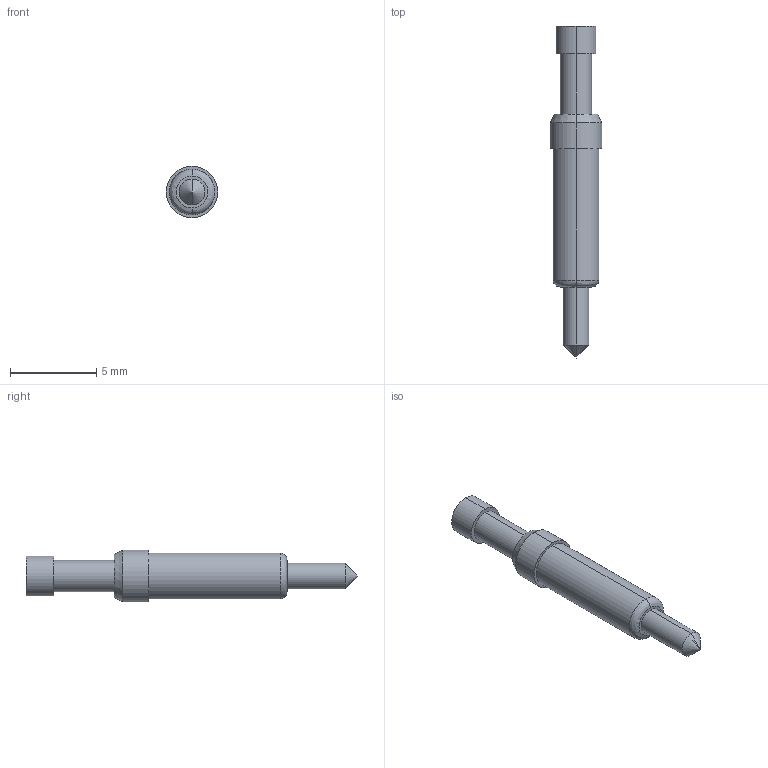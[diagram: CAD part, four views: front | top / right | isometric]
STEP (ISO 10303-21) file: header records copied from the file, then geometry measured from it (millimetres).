
FILE_DESCRIPTION (( 'STEP AP214' ), '1' );
FILE_NAME ('PC8FST-2.3.STEP', '2021-07-13T11:25:16', ( '' ), ( '' ), 'SwSTEP 2.0', 'SolidWorks 2021', '' );
FILE_SCHEMA (( 'AUTOMOTIVE_DESIGN' ));
Length unit declared in the file: millimetre
Products named in the file (1): PC8FST-2.3
Bounding box: 3 x 19.2 x 3 mm (x, y, z)
Volume: 79.4 mm3; surface area: 147.2 mm2
Topology: 1 solids, 1 shells, 21 faces, 42 edges, 25 vertices
Faces by surface type: cylinder 10, plane 5, cone 4, bspline 2
Entity records: 594 total; most frequent: CARTESIAN_POINT 123, DIRECTION 102, ORIENTED_EDGE 80, AXIS2_PLACEMENT_3D 44, EDGE_CURVE 40, EDGE_LOOP 25, VERTEX_POINT 25, CIRCLE 24
